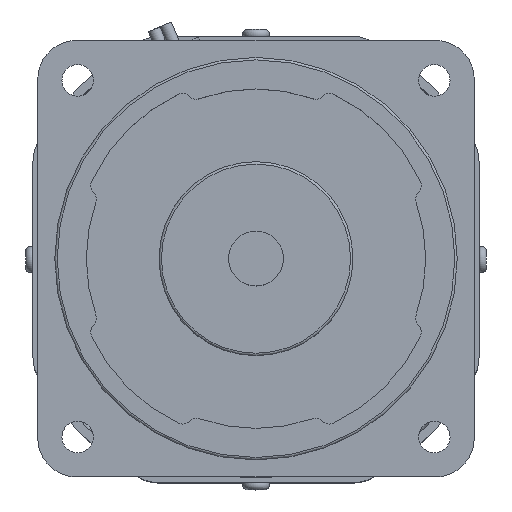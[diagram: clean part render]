
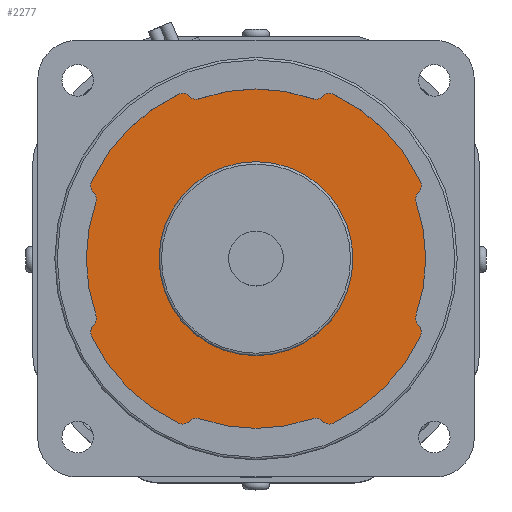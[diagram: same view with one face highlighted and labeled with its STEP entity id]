
A CAD part, top view. The second image highlights one B-rep face of the part: STEP entity #2277.
In plain terms, the highlighted planar face has unit normal (0, 0, 1).
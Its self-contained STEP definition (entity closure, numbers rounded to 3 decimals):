
#2036=CARTESIAN_POINT('',(20.0,0.,160.0));
#2037=VERTEX_POINT('',#2036);
#2038=CARTESIAN_POINT('',(0.,0.,160.0));
#2039=DIRECTION('',(0.0,0.0,-1.0));
#2040=DIRECTION('',(-1.0,0.0,0.0));
#2041=AXIS2_PLACEMENT_3D('',#2038,#2039,#2040);
#2042=CIRCLE('',#2041,20.0);
#2043=EDGE_CURVE('',#2037,#2037,#2042,.T.);
#2051=CARTESIAN_POINT('',(0.,0.,160.0));
#2052=DIRECTION('',(0.0,0.0,1.0));
#2053=DIRECTION('',(1.0,0.0,0.0));
#2054=AXIS2_PLACEMENT_3D('',#2051,#2052,#2053);
#2055=PLANE('',#2054);
#2056=CARTESIAN_POINT('',(-16.006,-33.913,160.0));
#2057=VERTEX_POINT('',#2056);
#2058=CARTESIAN_POINT('',(-13.722,-33.501,160.0));
#2059=VERTEX_POINT('',#2058);
#2060=CARTESIAN_POINT('',(-15.152,-32.104,160.0));
#2061=DIRECTION('',(0.0,0.0,1.0));
#2062=DIRECTION('',(0.427,0.904,0.0));
#2063=AXIS2_PLACEMENT_3D('',#2060,#2061,#2062);
#2064=CIRCLE('',#2063,2.);
#2065=EDGE_CURVE('',#2057,#2059,#2064,.T.);
#2066=ORIENTED_EDGE('',*,*,#2065,.T.);
#2067=CARTESIAN_POINT('',(-11.626,-33.013,160.0));
#2068=VERTEX_POINT('',#2067);
#2069=CARTESIAN_POINT('',(-12.291,-34.899,160.0));
#2070=DIRECTION('',(0.0,0.0,-1.0));
#2071=DIRECTION('',(-0.408,0.913,0.0));
#2072=AXIS2_PLACEMENT_3D('',#2069,#2070,#2071);
#2073=CIRCLE('',#2072,2.0);
#2074=EDGE_CURVE('',#2068,#2059,#2073,.F.);
#2075=ORIENTED_EDGE('',*,*,#2074,.F.);
#2076=CARTESIAN_POINT('',(11.626,-33.013,160.0));
#2077=VERTEX_POINT('',#2076);
#2078=CARTESIAN_POINT('',(0.,0.,160.));
#2079=DIRECTION('',(0.,0.,1.0));
#2080=DIRECTION('',(-0.383,-0.924,0.));
#2081=AXIS2_PLACEMENT_3D('',#2078,#2079,#2080);
#2082=CIRCLE('',#2081,35.0);
#2083=EDGE_CURVE('',#2068,#2077,#2082,.T.);
#2084=ORIENTED_EDGE('',*,*,#2083,.T.);
#2085=CARTESIAN_POINT('',(13.722,-33.501,160.0));
#2086=VERTEX_POINT('',#2085);
#2087=CARTESIAN_POINT('',(12.291,-34.899,160.0));
#2088=DIRECTION('',(0.0,0.0,-1.0));
#2089=DIRECTION('',(0.408,0.913,0.0));
#2090=AXIS2_PLACEMENT_3D('',#2087,#2088,#2089);
#2091=CIRCLE('',#2090,2.0);
#2092=EDGE_CURVE('',#2086,#2077,#2091,.F.);
#2093=ORIENTED_EDGE('',*,*,#2092,.F.);
#2094=CARTESIAN_POINT('',(16.006,-33.913,160.0));
#2095=VERTEX_POINT('',#2094);
#2096=CARTESIAN_POINT('',(15.152,-32.104,160.0));
#2097=DIRECTION('',(0.0,0.0,1.0));
#2098=DIRECTION('',(0.715,0.699,0.0));
#2099=AXIS2_PLACEMENT_3D('',#2096,#2097,#2098);
#2100=CIRCLE('',#2099,2.);
#2101=EDGE_CURVE('',#2086,#2095,#2100,.T.);
#2102=ORIENTED_EDGE('',*,*,#2101,.T.);
#2103=CARTESIAN_POINT('',(33.913,-16.006,160.0));
#2104=VERTEX_POINT('',#2103);
#2105=CARTESIAN_POINT('',(0.,0.,160.));
#2106=DIRECTION('',(0.,0.,1.0));
#2107=DIRECTION('',(0.383,-0.924,0.));
#2108=AXIS2_PLACEMENT_3D('',#2105,#2106,#2107);
#2109=CIRCLE('',#2108,37.5);
#2110=EDGE_CURVE('',#2095,#2104,#2109,.T.);
#2111=ORIENTED_EDGE('',*,*,#2110,.T.);
#2112=CARTESIAN_POINT('',(33.501,-13.722,160.0));
#2113=VERTEX_POINT('',#2112);
#2114=CARTESIAN_POINT('',(32.104,-15.152,160.0));
#2115=DIRECTION('',(0.0,0.0,1.0));
#2116=DIRECTION('',(-0.904,0.427,0.0));
#2117=AXIS2_PLACEMENT_3D('',#2114,#2115,#2116);
#2118=CIRCLE('',#2117,2.);
#2119=EDGE_CURVE('',#2104,#2113,#2118,.T.);
#2120=ORIENTED_EDGE('',*,*,#2119,.T.);
#2121=CARTESIAN_POINT('',(33.013,-11.626,160.0));
#2122=VERTEX_POINT('',#2121);
#2123=CARTESIAN_POINT('',(34.899,-12.291,160.0));
#2124=DIRECTION('',(0.0,0.0,-1.0));
#2125=DIRECTION('',(-0.913,-0.408,0.0));
#2126=AXIS2_PLACEMENT_3D('',#2123,#2124,#2125);
#2127=CIRCLE('',#2126,2.0);
#2128=EDGE_CURVE('',#2122,#2113,#2127,.F.);
#2129=ORIENTED_EDGE('',*,*,#2128,.F.);
#2130=CARTESIAN_POINT('',(33.013,11.626,160.0));
#2131=VERTEX_POINT('',#2130);
#2132=CARTESIAN_POINT('',(0.,0.,160.));
#2133=DIRECTION('',(0.,0.,1.0));
#2134=DIRECTION('',(0.924,-0.383,0.));
#2135=AXIS2_PLACEMENT_3D('',#2132,#2133,#2134);
#2136=CIRCLE('',#2135,35.);
#2137=EDGE_CURVE('',#2122,#2131,#2136,.T.);
#2138=ORIENTED_EDGE('',*,*,#2137,.T.);
#2139=CARTESIAN_POINT('',(33.501,13.722,160.0));
#2140=VERTEX_POINT('',#2139);
#2141=CARTESIAN_POINT('',(34.899,12.291,160.0));
#2142=DIRECTION('',(0.0,0.0,-1.0));
#2143=DIRECTION('',(-0.913,0.408,0.0));
#2144=AXIS2_PLACEMENT_3D('',#2141,#2142,#2143);
#2145=CIRCLE('',#2144,2.0);
#2146=EDGE_CURVE('',#2140,#2131,#2145,.F.);
#2147=ORIENTED_EDGE('',*,*,#2146,.F.);
#2148=CARTESIAN_POINT('',(33.913,16.006,160.0));
#2149=VERTEX_POINT('',#2148);
#2150=CARTESIAN_POINT('',(32.104,15.152,160.0));
#2151=DIRECTION('',(0.0,0.0,1.0));
#2152=DIRECTION('',(-0.699,0.715,0.0));
#2153=AXIS2_PLACEMENT_3D('',#2150,#2151,#2152);
#2154=CIRCLE('',#2153,2.);
#2155=EDGE_CURVE('',#2140,#2149,#2154,.T.);
#2156=ORIENTED_EDGE('',*,*,#2155,.T.);
#2157=CARTESIAN_POINT('',(16.006,33.913,160.0));
#2158=VERTEX_POINT('',#2157);
#2159=CARTESIAN_POINT('',(0.,0.,160.));
#2160=DIRECTION('',(0.,0.,1.0));
#2161=DIRECTION('',(0.924,0.383,0.));
#2162=AXIS2_PLACEMENT_3D('',#2159,#2160,#2161);
#2163=CIRCLE('',#2162,37.5);
#2164=EDGE_CURVE('',#2149,#2158,#2163,.T.);
#2165=ORIENTED_EDGE('',*,*,#2164,.T.);
#2166=CARTESIAN_POINT('',(13.722,33.501,160.0));
#2167=VERTEX_POINT('',#2166);
#2168=CARTESIAN_POINT('',(15.152,32.104,160.0));
#2169=DIRECTION('',(0.0,0.0,1.0));
#2170=DIRECTION('',(-0.427,-0.904,0.0));
#2171=AXIS2_PLACEMENT_3D('',#2168,#2169,#2170);
#2172=CIRCLE('',#2171,2.);
#2173=EDGE_CURVE('',#2158,#2167,#2172,.T.);
#2174=ORIENTED_EDGE('',*,*,#2173,.T.);
#2175=CARTESIAN_POINT('',(11.626,33.013,160.0));
#2176=VERTEX_POINT('',#2175);
#2177=CARTESIAN_POINT('',(12.291,34.899,160.0));
#2178=DIRECTION('',(0.0,0.0,-1.0));
#2179=DIRECTION('',(0.408,-0.913,0.0));
#2180=AXIS2_PLACEMENT_3D('',#2177,#2178,#2179);
#2181=CIRCLE('',#2180,2.0);
#2182=EDGE_CURVE('',#2176,#2167,#2181,.F.);
#2183=ORIENTED_EDGE('',*,*,#2182,.F.);
#2184=CARTESIAN_POINT('',(-11.626,33.013,160.0));
#2185=VERTEX_POINT('',#2184);
#2186=CARTESIAN_POINT('',(0.,0.,160.));
#2187=DIRECTION('',(0.,0.,1.0));
#2188=DIRECTION('',(0.383,0.924,0.));
#2189=AXIS2_PLACEMENT_3D('',#2186,#2187,#2188);
#2190=CIRCLE('',#2189,35.0);
#2191=EDGE_CURVE('',#2176,#2185,#2190,.T.);
#2192=ORIENTED_EDGE('',*,*,#2191,.T.);
#2193=CARTESIAN_POINT('',(-13.722,33.501,160.0));
#2194=VERTEX_POINT('',#2193);
#2195=CARTESIAN_POINT('',(-12.291,34.899,160.0));
#2196=DIRECTION('',(0.0,0.0,-1.0));
#2197=DIRECTION('',(-0.408,-0.913,0.0));
#2198=AXIS2_PLACEMENT_3D('',#2195,#2196,#2197);
#2199=CIRCLE('',#2198,2.0);
#2200=EDGE_CURVE('',#2194,#2185,#2199,.F.);
#2201=ORIENTED_EDGE('',*,*,#2200,.F.);
#2202=CARTESIAN_POINT('',(-16.006,33.913,160.0));
#2203=VERTEX_POINT('',#2202);
#2204=CARTESIAN_POINT('',(-15.152,32.104,160.0));
#2205=DIRECTION('',(0.0,0.0,1.0));
#2206=DIRECTION('',(-0.715,-0.699,0.0));
#2207=AXIS2_PLACEMENT_3D('',#2204,#2205,#2206);
#2208=CIRCLE('',#2207,2.);
#2209=EDGE_CURVE('',#2194,#2203,#2208,.T.);
#2210=ORIENTED_EDGE('',*,*,#2209,.T.);
#2211=CARTESIAN_POINT('',(-33.913,16.006,160.0));
#2212=VERTEX_POINT('',#2211);
#2213=CARTESIAN_POINT('',(0.,0.,160.));
#2214=DIRECTION('',(0.,0.,1.0));
#2215=DIRECTION('',(-0.383,0.924,0.));
#2216=AXIS2_PLACEMENT_3D('',#2213,#2214,#2215);
#2217=CIRCLE('',#2216,37.5);
#2218=EDGE_CURVE('',#2203,#2212,#2217,.T.);
#2219=ORIENTED_EDGE('',*,*,#2218,.T.);
#2220=CARTESIAN_POINT('',(-33.501,13.722,160.0));
#2221=VERTEX_POINT('',#2220);
#2222=CARTESIAN_POINT('',(-32.104,15.152,160.0));
#2223=DIRECTION('',(0.0,0.0,1.0));
#2224=DIRECTION('',(0.904,-0.427,0.0));
#2225=AXIS2_PLACEMENT_3D('',#2222,#2223,#2224);
#2226=CIRCLE('',#2225,2.);
#2227=EDGE_CURVE('',#2212,#2221,#2226,.T.);
#2228=ORIENTED_EDGE('',*,*,#2227,.T.);
#2229=CARTESIAN_POINT('',(-33.013,11.626,160.0));
#2230=VERTEX_POINT('',#2229);
#2231=CARTESIAN_POINT('',(-34.899,12.291,160.0));
#2232=DIRECTION('',(0.0,0.0,-1.0));
#2233=DIRECTION('',(0.913,0.408,0.0));
#2234=AXIS2_PLACEMENT_3D('',#2231,#2232,#2233);
#2235=CIRCLE('',#2234,2.0);
#2236=EDGE_CURVE('',#2230,#2221,#2235,.F.);
#2237=ORIENTED_EDGE('',*,*,#2236,.F.);
#2238=CARTESIAN_POINT('',(-33.013,-11.626,160.0));
#2239=VERTEX_POINT('',#2238);
#2240=CARTESIAN_POINT('',(0.,0.,160.));
#2241=DIRECTION('',(0.,0.,1.0));
#2242=DIRECTION('',(-0.924,0.383,0.));
#2243=AXIS2_PLACEMENT_3D('',#2240,#2241,#2242);
#2244=CIRCLE('',#2243,35.0);
#2245=EDGE_CURVE('',#2230,#2239,#2244,.T.);
#2246=ORIENTED_EDGE('',*,*,#2245,.T.);
#2247=CARTESIAN_POINT('',(-33.501,-13.722,160.0));
#2248=VERTEX_POINT('',#2247);
#2249=CARTESIAN_POINT('',(-34.899,-12.291,160.0));
#2250=DIRECTION('',(0.0,0.0,-1.0));
#2251=DIRECTION('',(0.913,-0.408,0.0));
#2252=AXIS2_PLACEMENT_3D('',#2249,#2250,#2251);
#2253=CIRCLE('',#2252,2.0);
#2254=EDGE_CURVE('',#2248,#2239,#2253,.F.);
#2255=ORIENTED_EDGE('',*,*,#2254,.F.);
#2256=CARTESIAN_POINT('',(-33.913,-16.006,160.0));
#2257=VERTEX_POINT('',#2256);
#2258=CARTESIAN_POINT('',(-32.104,-15.152,160.0));
#2259=DIRECTION('',(0.0,0.0,1.0));
#2260=DIRECTION('',(0.699,-0.715,0.0));
#2261=AXIS2_PLACEMENT_3D('',#2258,#2259,#2260);
#2262=CIRCLE('',#2261,2.);
#2263=EDGE_CURVE('',#2248,#2257,#2262,.T.);
#2264=ORIENTED_EDGE('',*,*,#2263,.T.);
#2265=CARTESIAN_POINT('',(0.,0.,160.));
#2266=DIRECTION('',(0.,0.,1.0));
#2267=DIRECTION('',(-0.924,-0.383,0.));
#2268=AXIS2_PLACEMENT_3D('',#2265,#2266,#2267);
#2269=CIRCLE('',#2268,37.5);
#2270=EDGE_CURVE('',#2257,#2057,#2269,.T.);
#2271=ORIENTED_EDGE('',*,*,#2270,.T.);
#2272=EDGE_LOOP('',(#2066,#2075,#2084,#2093,#2102,#2111,#2120,#2129,#2138,#2147,#2156,#2165,#2174,#2183,#2192,#2201,#2210,#2219,#2228,#2237,#2246,#2255,#2264,#2271));
#2273=FACE_OUTER_BOUND('',#2272,.T.);
#2274=ORIENTED_EDGE('',*,*,#2043,.T.);
#2275=EDGE_LOOP('',(#2274));
#2276=FACE_BOUND('',#2275,.T.);
#2277=ADVANCED_FACE('',(#2273,#2276),#2055,.T.);
